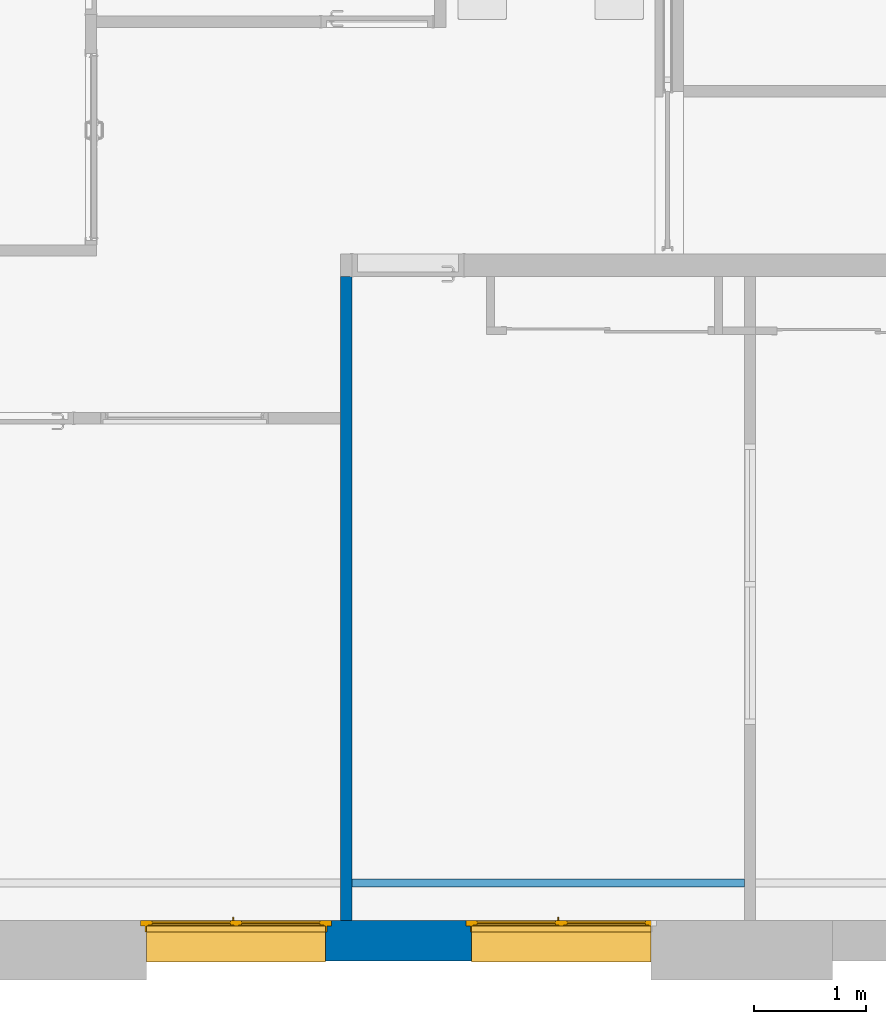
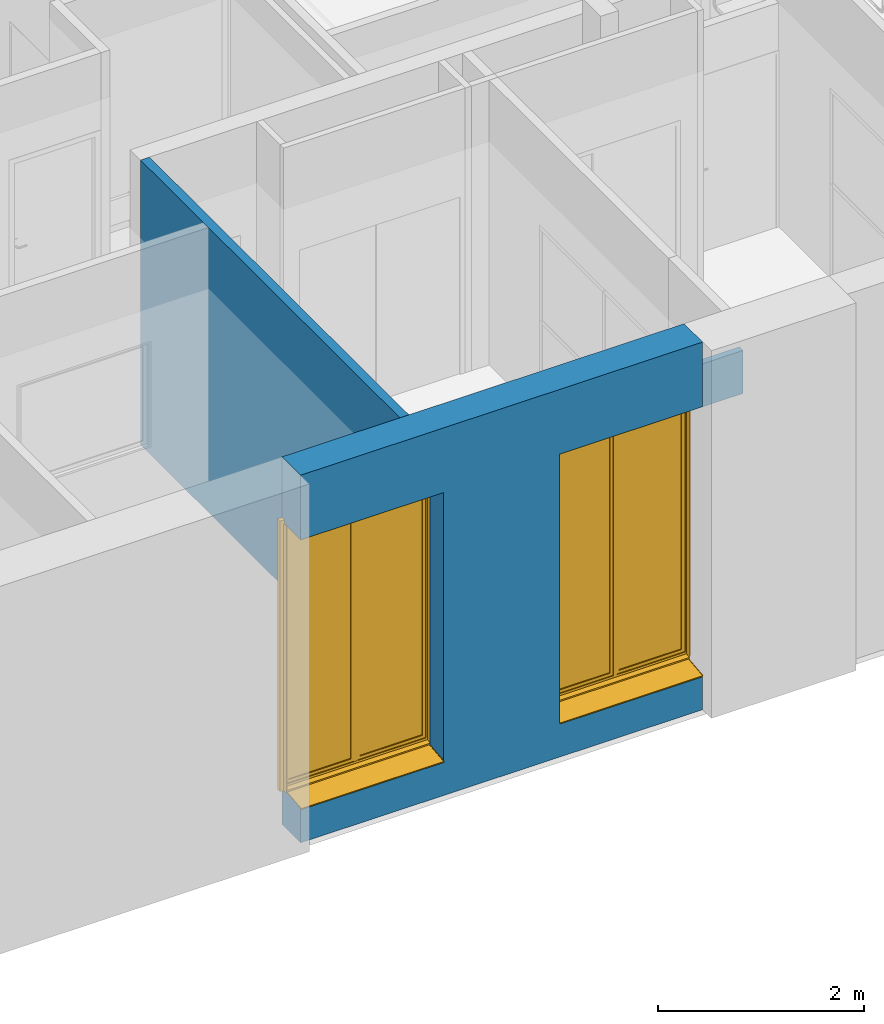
# One storey, part 5 of 32: 3 walls, 2 windows, 2 openings.
"""IFC2X3 building model written with IfcOpenShell, lengths in metres."""

import ifcopenshell
import ifcopenshell.guid

model = None  # the IFC model being written
_history = None  # IfcOwnerHistory: only IFC2X3 demands one
_inside = {}  # id of a spatial element -> (the spatial element, [elements in it])
_under = {}  # id of a project, library or spatial element -> (it, [spatial elements below it])
_declared = {}  # id of a project -> (the project, [libraries it declares])
_typed = {}  # id of a type object -> (the type object, [elements of that type])
_made_of = {}  # id of a material, layer set ... -> (it, [elements and type objects made of it])


def new_model(schema):
    """Start an empty IFC model of exactly this schema.

    Asked for "IFC4X3", IfcOpenShell would pick the latest addendum, in which some entities
    have other attributes; the version numbers below select the first issue.
    IFC2X3 requires an IfcOwnerHistory on every rooted entity: one is made here for all.
    """
    global model, _history
    if schema == "IFC4X3":
        model = ifcopenshell.file(schema_version=(4, 3, 0, 0))
    else:
        model = ifcopenshell.file(schema=schema)
    _inside.clear()
    _under.clear()
    _declared.clear()
    _typed.clear()
    _made_of.clear()
    _history = None
    if model.schema == "IFC2X3":
        org = make("IfcOrganization", Name="unknown")
        user = make(
            "IfcPersonAndOrganization",
            ThePerson=make("IfcPerson", FamilyName="unknown"),
            TheOrganization=org,
        )
        app = make(
            "IfcApplication",
            ApplicationDeveloper=org,
            Version="unknown",
            ApplicationFullName="unknown",
            ApplicationIdentifier="unknown",
        )
        _history = make(
            "IfcOwnerHistory",
            OwningUser=user,
            OwningApplication=app,
            ChangeAction="ADDED",
            CreationDate=0,
        )
    return model


def make(cls, **values):
    """One entity of the class cls with the attributes given. An attribute that is None is left unset."""
    return model.create_entity(
        cls, **{name: value for name, value in values.items() if value is not None}
    )


def entity(cls, *values):
    """Any entity or typed value of the class cls, its attributes in the order of the schema. None: left unset."""
    e = model.create_entity(cls)
    for i, value in enumerate(values):
        if value is not None:
            e[i] = value
    return e


def rooted(cls, **values):
    """An entity with a GlobalId (a new one), such as an element, a storey or a relation."""
    return make(cls, GlobalId=ifcopenshell.guid.new(), OwnerHistory=_history, **values)


def si_unit(unit_type, name, prefix=None):
    """IfcSIUnit, for example si_unit("LENGTHUNIT", "METRE", prefix="MILLI")."""
    return make("IfcSIUnit", UnitType=unit_type, Prefix=prefix, Name=name)


def converted_unit(unit_type, name, factor, base, dimensions=None, offset=None):
    """IfcConversionBasedUnit, such as the inch: factor (a typed value) times the base unit."""
    return make(
        "IfcConversionBasedUnit"
        if offset is None
        else "IfcConversionBasedUnitWithOffset",
        ConversionOffset=offset,
        Dimensions=None
        if dimensions is None
        else entity("IfcDimensionalExponents", *dimensions),
        UnitType=unit_type,
        Name=name,
        ConversionFactor=make(
            "IfcMeasureWithUnit", ValueComponent=factor, UnitComponent=base
        ),
    )


def derived_unit(unit_type, elements):
    """IfcDerivedUnit: a product of units, each with its exponent."""
    return make(
        "IfcDerivedUnit",
        Elements=[
            make("IfcDerivedUnitElement", Unit=unit, Exponent=power)
            for unit, power in elements
        ],
        UnitType=unit_type,
    )


def assignment(units):
    """IfcUnitAssignment: the units of a project."""
    return None if units is None else make("IfcUnitAssignment", Units=units)


def point(xyz):
    """IfcCartesianPoint."""
    return None if xyz is None else make("IfcCartesianPoint", Coordinates=xyz)


def direction(xyz):
    """IfcDirection."""
    return None if xyz is None else make("IfcDirection", DirectionRatios=xyz)


def frame(location, z_axis=None, x_axis=None):
    """IfcAxis2Placement3D, a coordinate frame: its origin and axes. An axis left out is left unset."""
    return make(
        "IfcAxis2Placement3D",
        Location=point(location),
        Axis=direction(z_axis),
        RefDirection=direction(x_axis),
    )


def frame_2d(location, x_axis=None):
    """IfcAxis2Placement2D, a coordinate frame in the plane: its origin and x axis."""
    return make(
        "IfcAxis2Placement2D", Location=point(location), RefDirection=direction(x_axis)
    )


def origin():
    """The frame at (0, 0, 0) with its axes left unset."""
    return frame((0.0, 0.0, 0.0))


def origin_2d_with_axis():
    """The frame at (0, 0) in the plane with the x axis (1, 0) written out."""
    return frame_2d((0.0, 0.0), x_axis=(1.0, 0.0))


def place(relative_to, where):
    """IfcLocalPlacement: puts the frame where relative to a parent placement (None: the world)."""
    return make(
        "IfcLocalPlacement", PlacementRelTo=relative_to, RelativePlacement=where
    )


def context(
    kind, dimensions, precision=None, world=None, true_north=None, identifier=None
):
    """IfcGeometricRepresentationContext, for example the 3D "Model" context."""
    return make(
        "IfcGeometricRepresentationContext",
        ContextIdentifier=identifier,
        ContextType=kind,
        CoordinateSpaceDimension=dimensions,
        Precision=precision,
        WorldCoordinateSystem=world,
        TrueNorth=true_north,
    )


def subcontext(parent, identifier, kind, view, scale=None):
    """IfcGeometricRepresentationSubContext, for example "Body" below "Model"."""
    return make(
        "IfcGeometricRepresentationSubContext",
        ContextIdentifier=identifier,
        ContextType=kind,
        ParentContext=parent,
        TargetScale=scale,
        TargetView=view,
    )


def project(units=None, contexts=None):
    """IfcProject with its units and contexts."""
    return rooted(
        "IfcProject",
        Name="project",
        RepresentationContexts=contexts,
        UnitsInContext=assignment(units),
    )


def spatial(cls, under=None, at=None, **own):
    """A site, building, storey or space (cls), placed at a placement, below another one or the project."""
    s = rooted(cls, ObjectPlacement=at, **own)
    if under is not None:
        _under.setdefault(under.id(), (under, []))[1].append(s)
    return s


def polyline(points):
    """IfcPolyline through the points."""
    return make("IfcPolyline", Points=[point(p) for p in points])


def circle_curve(where, radius):
    """IfcCircle in the frame where."""
    return make("IfcCircle", Position=where, Radius=radius)


def parameter(value):
    """IfcParameterValue: where a trimmed curve begins or ends, as a parameter of its basis curve."""
    return model.create_entity("IfcParameterValue", value)


def trimmed(basis, trim1, trim2, sense, master):
    """IfcTrimmedCurve: the piece of a basis curve between two trims."""
    return make(
        "IfcTrimmedCurve",
        BasisCurve=basis,
        Trim1=trim1,
        Trim2=trim2,
        SenseAgreement=sense,
        MasterRepresentation=master,
    )


def segment(curve, same_sense, transition):
    """IfcCompositeCurveSegment."""
    return make(
        "IfcCompositeCurveSegment",
        Transition=transition,
        SameSense=same_sense,
        ParentCurve=curve,
    )


def composite_curve(segments, self_intersect=None):
    """IfcCompositeCurve: segments joined end to end."""
    return make("IfcCompositeCurve", Segments=segments, SelfIntersect=self_intersect)


def profile(cls, at=None, kind="AREA", **sizes):
    """A parametric profile (cls). Its sizes go by their IFC names, for example OverallWidth=200.0."""
    return make(cls, ProfileType=kind, Position=at, **sizes)


def rectangle(**sizes):
    """IfcRectangleProfileDef."""
    return profile("IfcRectangleProfileDef", **sizes)


def outline(outer, holes=None, kind="AREA"):
    """IfcArbitraryClosedProfileDef: a profile drawn as a closed curve; with holes, ...WithVoids."""
    if holes is None:
        return make("IfcArbitraryClosedProfileDef", ProfileType=kind, OuterCurve=outer)
    return make(
        "IfcArbitraryProfileDefWithVoids",
        ProfileType=kind,
        OuterCurve=outer,
        InnerCurves=holes,
    )


def extrude(swept, where, along, depth):
    """IfcExtrudedAreaSolid: the profile swept, set in the frame where, extruded along a direction by depth."""
    return make(
        "IfcExtrudedAreaSolid",
        SweptArea=swept,
        Position=where,
        ExtrudedDirection=direction(along),
        Depth=depth,
    )


def faces_of(points, faces, orient=None, outer=None):
    """IfcFace entities. A face is a list of loops; a loop is a list of indices into points, from 0.

    orient and outer hold one flag for each loop. By default every Orientation is true, the
    first loop of a face is its IfcFaceOuterBound and the others are IfcFaceBound.
    """
    made = []
    for i, loops in enumerate(faces):
        bounds = []
        for j, loop in enumerate(loops):
            is_outer = j == 0 if outer is None else outer[i][j]
            bounds.append(
                make(
                    "IfcFaceOuterBound" if is_outer else "IfcFaceBound",
                    Bound=make("IfcPolyLoop", Polygon=[points[k] for k in loop]),
                    Orientation=True if orient is None else orient[i][j],
                )
            )
        made.append(make("IfcFace", Bounds=bounds))
    return made


def faceted_brep(points, faces, orient=None, outer=None, voids=None):
    """IfcFacetedBrep: a solid bounded by flat faces; with voids (closed shells), ...WithVoids."""
    shared = [point(p) for p in points]
    hull = make("IfcClosedShell", CfsFaces=faces_of(shared, faces, orient, outer))
    if voids is None:
        return make("IfcFacetedBrep", Outer=hull)
    return make(
        "IfcFacetedBrepWithVoids",
        Outer=hull,
        Voids=[
            make(cls, CfsFaces=faces_of(shared, fs, o, b)) for cls, fs, o, b in voids
        ],
    )


def shape(context_of_items, identifier, shape_type, items):
    """IfcShapeRepresentation: the items that make up one representation, for example the "Body"."""
    return make(
        "IfcShapeRepresentation",
        ContextOfItems=context_of_items,
        RepresentationIdentifier=identifier,
        RepresentationType=shape_type,
        Items=items,
    )


def source(mapping_origin, context_of_items, identifier, shape_type, items):
    """IfcRepresentationMap: a shape defined once, which mapped items show again and again."""
    return make(
        "IfcRepresentationMap",
        MappingOrigin=mapping_origin,
        MappedRepresentation=shape(context_of_items, identifier, shape_type, items),
    )


def transform(
    local_origin,
    x_axis=None,
    y_axis=None,
    z_axis=None,
    scale=None,
    scale2=None,
    scale3=None,
    uniform=True,
):
    """IfcCartesianTransformationOperator3D, or its non-uniform kind. x_axis, y_axis, z_axis: its Axis1, 2, 3."""
    if uniform:
        return make(
            "IfcCartesianTransformationOperator3D",
            Axis1=direction(x_axis),
            Axis2=direction(y_axis),
            LocalOrigin=point(local_origin),
            Scale=scale,
            Axis3=direction(z_axis),
        )
    return make(
        "IfcCartesianTransformationOperator3DnonUniform",
        Axis1=direction(x_axis),
        Axis2=direction(y_axis),
        LocalOrigin=point(local_origin),
        Scale=scale,
        Axis3=direction(z_axis),
        Scale2=scale2,
        Scale3=scale3,
    )


def mapped(mapping_source, mapping_target):
    """IfcMappedItem: shows the shape of a source again, moved by a transform."""
    return make(
        "IfcMappedItem", MappingSource=mapping_source, MappingTarget=mapping_target
    )


def material(Name=None, Category=None):
    """IfcMaterial."""
    return make("IfcMaterial", Name=Name, Category=Category)


def material_list(materials):
    """IfcMaterialList."""
    return make("IfcMaterialList", Materials=materials)


def layer(
    of_material, thickness, ventilated=None, Name=None, Category=None, Priority=None
):
    """IfcMaterialLayer: one layer of a wall or slab, of a material (None: an air gap)."""
    return make(
        "IfcMaterialLayer",
        Material=of_material,
        LayerThickness=thickness,
        IsVentilated=ventilated,
        Name=Name,
        Category=Category,
        Priority=Priority,
    )


def layer_set(layers, Name=None):
    """IfcMaterialLayerSet."""
    return make("IfcMaterialLayerSet", MaterialLayers=layers, LayerSetName=Name)


def layer_usage(for_layer_set, set_direction, sense, offset, extent=None):
    """IfcMaterialLayerSetUsage: how a layer set lies in its element."""
    return make(
        "IfcMaterialLayerSetUsage",
        ForLayerSet=for_layer_set,
        LayerSetDirection=set_direction,
        DirectionSense=sense,
        OffsetFromReferenceLine=offset,
        ReferenceExtent=extent,
    )


def made_of(thing, what):
    """Note that an element or type object is made of a material, layer set ...; save() writes the relation."""
    if what is not None:
        _made_of.setdefault(what.id(), (what, []))[1].append(thing)
    return thing


def type_object(cls, material=None, **own):
    """A type object (cls), such as IfcWallType, which elements share."""
    return made_of(rooted(cls, **own), material)


def type_shapes(of_type, sources):
    """Give a type object the sources (RepresentationMaps) that its elements show as mapped items."""
    of_type.RepresentationMaps = sources


def element(
    cls,
    number,
    at=None,
    inside=None,
    cuts=None,
    type_object=None,
    material=None,
    context=None,
    identifier="Body",
    shape_type=None,
    held_by="IfcProductDefinitionShape",
    body=None,
    shapes=None,
    **own,
):
    """One element of the class cls, such as IfcWall. Its Tag is "e" and its number.

    at: its placement. inside: the storey or other place that contains it. cuts: it is an
    opening in that element (IfcRelVoidsElement). A single representation is given by context,
    identifier, shape_type and body (its items); several are given by shapes. held_by: the class
    of the entity that holds the representations. save() writes the other relations.
    """
    e = rooted(cls, Tag="e%d" % number, ObjectPlacement=at, **own)
    if body is not None:
        shapes = [shape(context, identifier, shape_type, body)]
    if shapes is not None:
        e.Representation = make(held_by, Representations=shapes)
    if inside is not None:
        _inside.setdefault(inside.id(), (inside, []))[1].append(e)
    if cuts is not None:
        rooted(
            "IfcRelVoidsElement", RelatingBuildingElement=cuts, RelatedOpeningElement=e
        )
    if type_object is not None:
        _typed.setdefault(type_object.id(), (type_object, []))[1].append(e)
    return made_of(e, material)


def fill(opening, filler):
    """IfcRelFillsElement: the door or window that sits in an opening."""
    return rooted(
        "IfcRelFillsElement",
        RelatingOpeningElement=opening,
        RelatedBuildingElement=filler,
    )


def aggregate(whole, parts):
    """IfcRelAggregates: a whole, such as a stair, and the parts it consists of."""
    return rooted("IfcRelAggregates", RelatingObject=whole, RelatedObjects=parts)


def save(model, path):
    """Write the relations noted so far, then the file.

    IfcRelAggregates (storeys below a building ...), IfcRelContainedInSpatialStructure (elements
    in a storey), IfcRelDefinesByType, IfcRelAssociatesMaterial and IfcRelDeclares: one each for
    every whole, place, type object, material and project.
    """
    for whole, parts in _under.values():
        aggregate(whole, parts)
    for where, things in _inside.values():
        rooted(
            "IfcRelContainedInSpatialStructure",
            RelatedElements=things,
            RelatingStructure=where,
        )
    for kind, things in _typed.values():
        rooted("IfcRelDefinesByType", RelatedObjects=things, RelatingType=kind)
    for what, things in _made_of.values():
        rooted("IfcRelAssociatesMaterial", RelatedObjects=things, RelatingMaterial=what)
    for by, libraries in _declared.values():
        rooted("IfcRelDeclares", RelatingContext=by, RelatedDefinitions=libraries)
    model.write(path)


model = new_model("IFC2X3")

# Units and contexts
model_context = context("Model", 3, precision=1e-05, world=origin(), true_north=direction((6.12303176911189e-17, 1.0)))
plan_context = context("Plan", 3, precision=1e-05, world=origin(), true_north=direction((6.12303176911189e-17, 1.0)))
body_context = subcontext(model_context, "Body", "Model", "MODEL_VIEW")
ifc_project = project(units=[si_unit("LENGTHUNIT", "METRE"), si_unit("AREAUNIT", "SQUARE_METRE"), si_unit("VOLUMEUNIT", "CUBIC_METRE"), converted_unit("PLANEANGLEUNIT", "DEGREE", entity("IfcRatioMeasure", 0.0174532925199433), si_unit("PLANEANGLEUNIT", "RADIAN"), dimensions=[0, 0, 0, 0, 0, 0, 0]), si_unit("MASSUNIT", "GRAM", prefix="KILO"), derived_unit("MASSDENSITYUNIT", [(si_unit("MASSUNIT", "GRAM", prefix="KILO"), 1), (si_unit("LENGTHUNIT", "METRE"), -3)]), derived_unit("MOMENTOFINERTIAUNIT", [(si_unit("LENGTHUNIT", "METRE"), 4)]), si_unit("TIMEUNIT", "SECOND"), si_unit("FREQUENCYUNIT", "HERTZ"), si_unit("THERMODYNAMICTEMPERATUREUNIT", "DEGREE_CELSIUS"), derived_unit("THERMALTRANSMITTANCEUNIT", [(si_unit("MASSUNIT", "GRAM", prefix="KILO"), 1), (si_unit("THERMODYNAMICTEMPERATUREUNIT", "KELVIN"), -1), (si_unit("TIMEUNIT", "SECOND"), -3)]), derived_unit("VOLUMETRICFLOWRATEUNIT", [(si_unit("LENGTHUNIT", "METRE"), 3), (si_unit("TIMEUNIT", "SECOND"), -1)]), si_unit("ELECTRICCURRENTUNIT", "AMPERE"), si_unit("ELECTRICVOLTAGEUNIT", "VOLT"), si_unit("POWERUNIT", "WATT"), si_unit("FORCEUNIT", "NEWTON", prefix="KILO"), si_unit("ILLUMINANCEUNIT", "LUX"), si_unit("LUMINOUSFLUXUNIT", "LUMEN"), si_unit("LUMINOUSINTENSITYUNIT", "CANDELA"), derived_unit("USERDEFINED", [(si_unit("MASSUNIT", "GRAM", prefix="KILO"), -1), (si_unit("LENGTHUNIT", "METRE"), -2), (si_unit("TIMEUNIT", "SECOND"), 3), (si_unit("LUMINOUSFLUXUNIT", "LUMEN"), 1)]), derived_unit("LINEARVELOCITYUNIT", [(si_unit("LENGTHUNIT", "METRE"), 1), (si_unit("TIMEUNIT", "SECOND"), -1)]), si_unit("PRESSUREUNIT", "PASCAL"), derived_unit("USERDEFINED", [(si_unit("LENGTHUNIT", "METRE"), -2), (si_unit("MASSUNIT", "GRAM", prefix="KILO"), 1), (si_unit("TIMEUNIT", "SECOND"), -2)]), derived_unit("LINEARFORCEUNIT", [(si_unit("MASSUNIT", "GRAM", prefix="KILO"), 1), (si_unit("LENGTHUNIT", "METRE"), 1), (si_unit("TIMEUNIT", "SECOND"), -2), (si_unit("LENGTHUNIT", "METRE"), -1)]), derived_unit("PLANARFORCEUNIT", [(si_unit("MASSUNIT", "GRAM", prefix="KILO"), 1), (si_unit("LENGTHUNIT", "METRE"), 1), (si_unit("TIMEUNIT", "SECOND"), -2), (si_unit("LENGTHUNIT", "METRE"), -2)])], contexts=[model_context, plan_context])

# Site, building, storey
site_placement = place(None, origin())
site = spatial("IfcSite", under=ifc_project, at=site_placement, Name="Default", CompositionType="ELEMENT")
building_placement = place(site_placement, origin())
building = spatial("IfcBuilding", under=site, at=building_placement, CompositionType="ELEMENT")
storey_placement = place(building_placement, origin())
storey = spatial("IfcBuildingStorey", under=building, at=storey_placement, Name="0 Mairie RDC 0.00", CompositionType="ELEMENT", Elevation=-1.94916083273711e-14)

# Walls
ifc_material_1 = material(Name="Plâtre")
ifc_layer_1 = layer(ifc_material_1, 0.0125)
ifc_layer_2 = layer(ifc_material_1, 0.0125)
ifc_material_2 = material(Name="Maçonnerie - Isolant")
ifc_layer_3 = layer(ifc_material_2, 0.05)
ifc_layer_4 = layer(ifc_material_1, 0.0125)
ifc_layer_5 = layer(ifc_material_1, 0.0125)
ifc_layer_set_1 = layer_set([ifc_layer_1, ifc_layer_2, ifc_layer_3, ifc_layer_4, ifc_layer_5], Name="Mur de base:A cloison placostil 98 sèche")
ifc_layer_usage_1 = layer_usage(ifc_layer_set_1, "AXIS2", "NEGATIVE", 0.05)
wall_type_1 = type_object("IfcWallType", Name="Murs : Mur de base : A cloison placostil 98 sèche", PredefinedType="STANDARD", material=ifc_layer_set_1)
wall_1_placement = place(storey_placement, frame((-16.9554461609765, -13.9785662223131, 0.0), z_axis=(0.0, 0.0, 1.0), x_axis=(0.0, 1.0, 0.0)))
element("IfcWallStandardCase", 1, at=wall_1_placement, inside=storey, type_object=wall_type_1, material=ifc_layer_usage_1, Name="Murs : Mur de base : A cloison placostil 98 sèche", ObjectType="Mur de base:A cloison placostil 98 sèche", context=body_context, shape_type="SweptSolid", body=[
    extrude(rectangle(XDim=5.74580247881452, YDim=0.0999999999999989, at=frame_2d((2.87290123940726, -1.42247325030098e-16), x_axis=(-1.0, 0.0))), origin(), (0.0, 0.0, 1.0), 3.37),
])
ifc_layer_6 = layer(ifc_material_1, 0.01)
ifc_layer_7 = layer(ifc_material_2, 0.05)
ifc_layer_8 = layer(ifc_material_1, 0.01)
ifc_layer_set_2 = layer_set([ifc_layer_6, ifc_layer_7, ifc_layer_8], Name="Mur de base:A cloison placostil 72 sèche")
ifc_layer_usage_2 = layer_usage(ifc_layer_set_2, "AXIS2", "POSITIVE", -0.035)
wall_type_2 = type_object("IfcWallType", Name="Murs : Mur de base : A cloison placostil 72 sèche", PredefinedType="STANDARD", material=ifc_layer_set_2)
wall_2_placement = place(storey_placement, frame((-16.9054461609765, -13.6435662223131, 2.65)))
element("IfcWallStandardCase", 2, at=wall_2_placement, inside=storey, type_object=wall_type_2, material=ifc_layer_usage_2, Name="Murs : Mur de base : A cloison placostil 72 sèche", ObjectType="Mur de base:A cloison placostil 72 sèche", context=body_context, shape_type="SweptSolid", body=[
    extrude(rectangle(XDim=3.50119115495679, YDim=0.0700000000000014, at=frame_2d((1.7505955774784, 9.36750677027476e-17), x_axis=(-1.0, 0.0))), origin(), (0.0, 0.0, 1.0), 0.510000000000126),
])

# Wall, openings, windows
ifc_material_3 = material(Name="Maçonnerie - Enduit")
ifc_layer_9 = layer(ifc_material_3, 0.02)
ifc_material_4 = material(Name="Béton, coulé sur place")
ifc_layer_10 = layer(ifc_material_4, 0.2)
ifc_material_5 = material(Name="Vide")
ifc_layer_11 = layer(ifc_material_5, 0.01)
ifc_layer_12 = layer(ifc_material_2, 0.12)
ifc_layer_13 = layer(ifc_material_1, 0.01)
ifc_layer_set_3 = layer_set([ifc_layer_9, ifc_layer_10, ifc_layer_11, ifc_layer_12, ifc_layer_13], Name="Mur de base:A Enduit 2 + Béton 20 + vide 1 +  Doublage 13")
ifc_layer_usage_3 = layer_usage(ifc_layer_set_3, "AXIS2", "POSITIVE", -0.18)
wall_type_3 = type_object("IfcWallType", Name="Murs : Mur de base : A Enduit 2 + Béton 20 + vide 1 +  Doublage 13", PredefinedType="STANDARD", material=ifc_layer_set_3)
wall_3_placement = place(storey_placement, frame((-18.7386355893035, -14.1585662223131, -0.400000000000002)))
wall_3 = element("IfcWallStandardCase", 3, at=wall_3_placement, inside=storey, type_object=wall_type_3, material=ifc_layer_usage_3, Name="Murs : Mur de base : A Enduit 2 + Béton 20 + vide 1 +  Doublage 13", ObjectType="Mur de base:A Enduit 2 + Béton 20 + vide 1 +  Doublage 13", context=body_context, shape_type="SweptSolid", body=[
    extrude(rectangle(XDim=4.50000000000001, YDim=0.36, at=frame_2d((2.25, 3.33066907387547e-16), x_axis=(-1.0, 0.0))), origin(), (0.0, 0.0, 1.0), 4.35000000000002),
])
opening_1_placement = place(wall_3_placement, frame((2.85000000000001, -0.500000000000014, 0.400000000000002)))
opening_1 = element("IfcOpeningElement", 4, at=opening_1_placement, cuts=wall_3, Name="Murs : Mur de base : A Enduit 2 + Béton 20 + vide 1 +  Doublage 13", ObjectType="Opening", context=body_context, shape_type="Brep", body=[
    faceted_brep([(1.65, 0.59999999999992, 0.035), (1.65, 0.579999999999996, 0.035), (1.65, 0.579999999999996, 3.185), (1.65, 0.0, 3.185), (1.65, 0.0, 0.0), (1.65, 0.266997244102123, 0.0), (0.0500000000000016, 1.0, 0.0350000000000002), (0.0499999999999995, 0.680000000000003, 0.0350000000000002), (0.0499999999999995, 0.680000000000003, 3.185), (0.0500000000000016, 1.0, 3.185), (1.65, 1.0, 0.0350000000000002), (1.65, 0.679999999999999, 0.0350000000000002), (1.7, 0.679999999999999, 0.0350000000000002), (1.7, 0.63, 0.0350000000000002), (1.66, 0.63, 0.0350000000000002), (1.66, 0.579999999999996, 0.0350000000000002), (0.0499999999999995, 0.599999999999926, 0.0349999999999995), (0.0499999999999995, 0.580000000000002, 0.0350000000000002), (0.0399999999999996, 0.580000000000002, 0.0350000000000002), (0.0399999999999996, 0.630000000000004, 0.0350000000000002), (0.0, 0.630000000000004, 0.0350000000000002), (0.0, 0.680000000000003, 0.0350000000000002), (1.65, 1.0, 3.185), (0.0499999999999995, 0.58, 3.185), (0.0499999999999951, 0.0, 3.185), (0.0499999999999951, 0.0, 0.0), (0.0499999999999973, 0.266997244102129, 0.0), (1.7, 0.679999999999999, 3.235), (1.7, 0.63, 3.235), (0.0, 0.630000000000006, 3.235), (0.0399999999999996, 0.630000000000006, 3.195), (1.66, 0.63, 3.195), (1.66, 0.579999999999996, 3.195), (0.0399999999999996, 0.580000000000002, 3.195), (1.65, 0.679999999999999, 3.185), (0.0, 0.680000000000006, 3.235)], [[[0, 1, 2, 3, 4, 5]], [[6, 7, 8, 9]], [[10, 11, 12, 13, 14, 15, 1, 0, 16, 17, 18, 19, 20, 21, 7, 6]], [[10, 6, 9, 22]], [[3, 2, 23, 24]], [[3, 24, 25, 4]], [[4, 25, 26, 5]], [[5, 26, 16, 0]], [[12, 27, 28, 13]], [[13, 28, 29, 20, 19, 30, 31, 14]], [[14, 31, 32, 15]], [[15, 32, 33, 18, 17, 23, 2, 1]], [[11, 34, 8, 7, 21, 35, 27, 12]], [[27, 35, 29, 28]], [[30, 33, 32, 31]], [[29, 35, 21, 20]], [[19, 18, 33, 30]], [[9, 8, 34, 22]], [[24, 23, 17, 16, 26, 25]], [[22, 34, 11, 10]]]),
])
opening_2_placement = place(wall_3_placement, frame((-0.0499999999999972, -0.500000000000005, 0.400000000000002)))
opening_2 = element("IfcOpeningElement", 5, at=opening_2_placement, cuts=wall_3, Name="Murs : Mur de base : A Enduit 2 + Béton 20 + vide 1 +  Doublage 13", ObjectType="Opening", context=body_context, shape_type="Brep", body=[
    faceted_brep([(1.65, 0.599999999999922, 0.035), (1.65, 0.579999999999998, 0.035), (1.65, 0.579999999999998, 3.185), (1.65, 0.0, 3.185), (1.65, 0.0, 0.0), (1.65, 0.266997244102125, 0.0), (0.0500000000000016, 1.0, 0.0350000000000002), (0.0499999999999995, 0.680000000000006, 0.0350000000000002), (0.0499999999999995, 0.680000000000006, 3.185), (0.0500000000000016, 1.0, 3.185), (1.65, 1.0, 0.0350000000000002), (1.65, 0.680000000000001, 0.0350000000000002), (1.7, 0.680000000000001, 0.0350000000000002), (1.7, 0.630000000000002, 0.0350000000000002), (1.66, 0.630000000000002, 0.0350000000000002), (1.66, 0.579999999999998, 0.0350000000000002), (0.0499999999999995, 0.599999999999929, 0.0349999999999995), (0.0499999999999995, 0.580000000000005, 0.0350000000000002), (0.0399999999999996, 0.580000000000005, 0.0350000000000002), (0.0399999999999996, 0.630000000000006, 0.0350000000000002), (0.0, 0.630000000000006, 0.0350000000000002), (0.0, 0.680000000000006, 0.0350000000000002), (1.65, 1.0, 3.185), (0.0499999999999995, 0.580000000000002, 3.185), (0.0499999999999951, 0.0, 3.185), (0.0499999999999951, 0.0, 0.0), (0.0499999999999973, 0.266997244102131, 0.0), (1.7, 0.680000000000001, 3.235), (1.7, 0.630000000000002, 3.235), (0.0, 0.630000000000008, 3.235), (0.0399999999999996, 0.630000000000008, 3.195), (1.66, 0.630000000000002, 3.195), (1.66, 0.579999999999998, 3.195), (0.0399999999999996, 0.580000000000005, 3.195), (1.65, 0.680000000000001, 3.185), (0.0, 0.680000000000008, 3.235)], [[[0, 1, 2, 3, 4, 5]], [[6, 7, 8, 9]], [[10, 11, 12, 13, 14, 15, 1, 0, 16, 17, 18, 19, 20, 21, 7, 6]], [[10, 6, 9, 22]], [[3, 2, 23, 24]], [[3, 24, 25, 4]], [[4, 25, 26, 5]], [[5, 26, 16, 0]], [[12, 27, 28, 13]], [[13, 28, 29, 20, 19, 30, 31, 14]], [[14, 31, 32, 15]], [[15, 32, 33, 18, 17, 23, 2, 1]], [[11, 34, 8, 7, 21, 35, 27, 12]], [[27, 35, 29, 28]], [[30, 33, 32, 31]], [[29, 35, 21, 20]], [[19, 18, 33, 30]], [[9, 8, 34, 22]], [[24, 23, 17, 16, 26, 25]], [[22, 34, 11, 10]]]),
])
ifc_material_6 = material(Name="PVC Blanc")
ifc_material_7 = material(Name="Fenêtre - Vitrage")
ifc_material_list = material_list([ifc_material_7, ifc_material_6])
window_style = type_object("IfcWindowStyle", Name="Fenêtres : PF 2 Vantaux - Droits : 1.60 x 3.15", ConstructionType="NOTDEFINED", OperationType="DOUBLE_PANEL_VERTICAL", ParameterTakesPrecedence=False, Sizeable=False, material=ifc_material_list)
shared_shape = source(origin(), body_context, "Body", "SolidModel", [
    extrude(outline(polyline([(-0.0233345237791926, -0.0332340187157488), (-0.0162634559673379, -0.0332340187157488), (0.0332340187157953, 0.0162634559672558), (0.0332340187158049, 0.0233345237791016), (0.0233345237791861, 0.0332340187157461), (0.0162634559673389, 0.0332340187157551), (-0.0332340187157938, -0.0162634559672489), (-0.0332340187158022, -0.0233345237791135), (-0.0233345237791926, -0.0332340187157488)])), frame((0.875000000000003, 0.314000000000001, 1.1), z_axis=(0.0, 1.0, 0.0), x_axis=(0.707106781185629, 0.0, -0.707106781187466)), (0.0, 0.0, 1.0), 0.00599999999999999),
    extrude(outline(polyline([(-0.145647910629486, 0.00157280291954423), (-0.14680589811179, -0.00944471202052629), (-0.141778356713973, -0.0094447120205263), (-0.141169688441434, -0.003653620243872), (0.145429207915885, -0.00365362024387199), (0.146997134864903, 0.0112642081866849), (0.142024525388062, 0.0117868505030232), (0.140950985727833, 0.00157280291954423), (-0.145647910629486, 0.00157280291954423)])), frame((0.05, 0.545014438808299, 0.0234321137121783), z_axis=(-1.0, 0.0, 0.0), x_axis=(0.0, -0.994521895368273, 0.104528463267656)), (0.0, 0.0, -1.0), 1.6),
    extrude(outline(composite_curve([segment(polyline([(-0.014354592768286, -0.11472792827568), (-0.0129286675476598, -0.11472792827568)]), True, "CONTINUOUS"), segment(trimmed(circle_curve(frame_2d((-0.0129286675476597, -0.11072792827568), x_axis=(0.0, 1.0)), 0.004), [parameter(180.0)], [parameter(264.0)], True, "PARAMETER"), True, "CONTINUOUS"), segment(polyline([(-0.00895057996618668, -0.111146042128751), (0.0206306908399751, 0.170300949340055)]), True, "CONTINUOUS"), segment(polyline([(0.0206306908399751, 0.170300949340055), (0.0156031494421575, 0.170300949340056)]), True, "CONTINUOUS"), segment(polyline([(0.0156031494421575, 0.170300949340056), (-0.014354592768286, -0.11472792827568)]), True, "CONTINUOUS")], self_intersect=False)), frame((0.0499999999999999, 0.575300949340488, 0.0241265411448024), z_axis=(1.0, 0.0, 0.0), x_axis=(0.0, 0.0, 1.0)), (0.0, 0.0, 1.0), 0.00499999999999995),
    extrude(outline(composite_curve([segment(polyline([(-0.0143545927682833, -0.11472792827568), (-0.0129286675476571, -0.11472792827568)]), True, "CONTINUOUS"), segment(trimmed(circle_curve(frame_2d((-0.0129286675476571, -0.11072792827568), x_axis=(0.0, 1.0)), 0.004), [parameter(180.0)], [parameter(264.0)], True, "PARAMETER"), True, "CONTINUOUS"), segment(polyline([(-0.00895057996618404, -0.111146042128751), (0.020630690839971, 0.170300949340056)]), True, "CONTINUOUS"), segment(polyline([(0.020630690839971, 0.170300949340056), (0.0156031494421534, 0.170300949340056)]), True, "CONTINUOUS"), segment(polyline([(0.0156031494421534, 0.170300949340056), (-0.0143545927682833, -0.11472792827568)]), True, "CONTINUOUS")], self_intersect=False)), frame((1.645, 0.575300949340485, 0.0241265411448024), z_axis=(1.0, 0.0, 0.0), x_axis=(0.0, 0.0, 1.0)), (0.0, 0.0, 1.0), 0.00499999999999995),
    extrude(outline(polyline([(-0.400000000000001, -1.55), (0.400000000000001, -1.55), (0.400000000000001, 1.55), (-0.400000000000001, 1.55), (-0.400000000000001, -1.55)]), holes=[polyline([(0.350000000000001, -1.5), (-0.350000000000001, -1.5), (-0.350000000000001, 1.5), (0.350000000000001, 1.5), (0.350000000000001, -1.5)])]), frame((0.449999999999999, 0.320000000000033, 1.635), z_axis=(0.0, 1.0, 0.0), x_axis=(-1.0, 0.0, 0.0)), (0.0, 0.0, 1.0), 0.0399999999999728),
    extrude(rectangle(XDim=0.012, YDim=0.700000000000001, at=origin_2d_with_axis()), frame((1.25, 0.339999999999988, 0.135), z_axis=(0.0, 0.0, 1.0), x_axis=(0.0, -1.0, 0.0)), (0.0, 0.0, 1.0), 3.0),
    extrude(rectangle(XDim=0.012, YDim=0.700000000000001, at=origin_2d_with_axis()), frame((0.449999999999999, 0.339999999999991, 0.135), z_axis=(0.0, 0.0, 1.0), x_axis=(0.0, -1.0, 0.0)), (0.0, 0.0, 1.0), 3.0),
    extrude(outline(polyline([(-0.399999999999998, -1.55), (0.400000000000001, -1.55), (0.399999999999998, 1.55), (-0.400000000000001, 1.55), (-0.399999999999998, -1.55)]), holes=[polyline([(0.350000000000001, -1.5), (-0.349999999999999, -1.5), (-0.350000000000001, 1.5), (0.349999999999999, 1.5), (0.350000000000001, -1.5)])]), frame((1.25, 0.319999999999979, 1.635), z_axis=(0.0, 1.0, 0.0), x_axis=(-1.0, 0.0, 0.0)), (0.0, 0.0, 1.0), 0.0399999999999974),
    extrude(outline(polyline([(-1.5775, -0.81), (1.5825, -0.81), (1.5825, 0.81), (-1.5775, 0.810000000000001), (-1.5775, 0.8), (1.5725, 0.8), (1.5725, -0.8), (-1.5775, -0.8), (-1.5775, -0.81)])), frame((0.85, 0.37, 1.6125), z_axis=(0.0, 1.0, 0.0), x_axis=(0.0, 0.0, 1.0)), (0.0, 0.0, 1.0), 0.0500000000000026),
    extrude(rectangle(XDim=0.0400000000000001, YDim=0.00799999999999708, at=frame_2d((0.0, 8.23993651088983e-18), x_axis=(1.0, 0.0))), frame((0.85, 0.363999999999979, 0.0999999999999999), z_axis=(0.0, 0.0, 1.0), x_axis=(-1.0, 0.0, 0.0)), (0.0, 0.0, 1.0), 3.07),
    faceted_brep([(0.880646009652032, 0.313999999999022, 1.12203392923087), (0.882033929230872, 0.313999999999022, 1.12064600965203), (0.882033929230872, 0.313999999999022, 1.10933230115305), (0.880667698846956, 0.313999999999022, 1.10796607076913), (0.869332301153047, 0.313999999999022, 1.10796607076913), (0.867966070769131, 0.313999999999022, 1.10933230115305), (0.867966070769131, 0.313999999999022, 1.12064600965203), (0.869353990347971, 0.313999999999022, 1.12203392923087), (0.880646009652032, 0.301086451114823, 1.12203392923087), (0.882033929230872, 0.301661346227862, 1.12064600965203), (0.882033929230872, 0.288353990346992, 1.10733865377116), (0.882033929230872, 0.288353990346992, 1.02), (0.882033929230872, 0.299667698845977, 1.02), (0.882033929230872, 0.299667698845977, 1.10265236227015), (0.882033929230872, 0.306347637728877, 1.10933230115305), (0.880667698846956, 0.306913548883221, 1.10796607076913), (0.869332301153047, 0.306913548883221, 1.10796607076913), (0.867966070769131, 0.306347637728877, 1.10933230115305), (0.867966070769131, 0.299667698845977, 1.10265236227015), (0.867966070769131, 0.299667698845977, 1.02), (0.867966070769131, 0.288353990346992, 1.02), (0.867966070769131, 0.288353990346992, 1.10733865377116), (0.867966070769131, 0.301661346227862, 1.12064600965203), (0.869353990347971, 0.301086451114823, 1.12203392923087), (0.880646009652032, 0.286966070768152, 1.1079135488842), (0.880667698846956, 0.301033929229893, 1.1020864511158), (0.869332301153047, 0.301033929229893, 1.1020864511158), (0.869353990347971, 0.286966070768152, 1.1079135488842), (0.880646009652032, 0.286966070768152, 1.02), (0.869353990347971, 0.286966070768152, 1.02), (0.869332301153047, 0.301033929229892, 1.02), (0.880667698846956, 0.301033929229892, 1.02)], [[[0, 1, 2, 3, 4, 5, 6, 7]], [[1, 0, 8, 9]], [[2, 1, 9, 10, 11, 12, 13, 14]], [[3, 2, 14, 15]], [[4, 3, 15, 16]], [[5, 4, 16, 17]], [[6, 5, 17, 18, 19, 20, 21, 22]], [[7, 6, 22, 23]], [[0, 7, 23, 8]], [[9, 8, 24, 10]], [[15, 14, 13, 25]], [[16, 15, 25, 26]], [[17, 16, 26, 18]], [[23, 22, 21, 27]], [[8, 23, 27, 24]], [[28, 29, 20, 19, 30, 31, 12, 11]], [[10, 24, 28, 11]], [[25, 13, 12, 31]], [[26, 25, 31, 30]], [[18, 26, 30, 19]], [[27, 21, 20, 29]], [[24, 27, 29, 28]]]),
    faceted_brep([(0.0, 0.320000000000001, 0.0350000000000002), (0.0, 0.370000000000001, 0.0350000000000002), (0.0499999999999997, 0.370000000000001, 0.0350000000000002), (0.0499999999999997, 0.399999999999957, 0.0350000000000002), (1.65, 0.399999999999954, 0.0350000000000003), (1.65, 0.370000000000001, 0.0350000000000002), (1.7, 0.370000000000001, 0.0350000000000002), (1.7, 0.320000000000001, 0.0350000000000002), (0.0, 0.320000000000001, 3.235), (0.0, 0.370000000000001, 3.235), (1.7, 0.370000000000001, 3.235), (1.65, 0.370000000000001, 0.0743761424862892), (0.0499999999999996, 0.370000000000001, 0.0743761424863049), (0.0649999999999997, 0.370000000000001, 3.17), (0.0649999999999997, 0.370000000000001, 0.0999999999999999), (1.635, 0.370000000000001, 0.1), (1.635, 0.370000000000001, 3.17), (0.0499999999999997, 0.419999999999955, 0.060978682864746), (0.0499999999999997, 0.419999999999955, 0.0450000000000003), (0.0499999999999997, 0.40999999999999, 0.0450000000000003), (0.0499999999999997, 0.40999999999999, 0.050000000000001), (0.0499999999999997, 0.399999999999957, 0.050000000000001), (1.65, 0.399999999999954, 0.050000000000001), (1.65, 0.409999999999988, 0.050000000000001), (1.65, 0.409999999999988, 0.0450000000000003), (1.65, 0.419999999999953, 0.0450000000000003), (1.65, 0.419999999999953, 0.060978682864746), (1.7, 0.320000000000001, 3.235), (1.65, 0.320000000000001, 3.185), (1.65, 0.32, 0.0850000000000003), (0.0499999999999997, 0.320000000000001, 0.0850000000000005), (0.0499999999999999, 0.320000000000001, 3.185), (0.0649999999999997, 0.360000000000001, 3.17), (0.0649999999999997, 0.360000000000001, 0.0999999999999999), (1.635, 0.360000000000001, 0.1), (1.635, 0.360000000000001, 3.17), (1.65, 0.360000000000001, 3.185), (0.0499999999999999, 0.360000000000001, 3.185), (0.0499999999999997, 0.360000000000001, 0.0850000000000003), (1.65, 0.360000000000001, 0.0850000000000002)], [[[0, 1, 2, 3, 4, 5, 6, 7]], [[1, 0, 8, 9]], [[1, 9, 10, 6, 5, 11, 12, 2], [13, 14, 15, 16]], [[12, 17, 18, 19, 20, 21, 3, 2]], [[3, 21, 22, 4]], [[4, 22, 23, 24, 25, 26, 11, 5]], [[6, 10, 27, 7]], [[0, 7, 27, 8], [28, 29, 30, 31]], [[13, 32, 33, 14]], [[33, 34, 15, 14]], [[35, 16, 15, 34]], [[17, 12, 11, 26]], [[36, 37, 38, 39], [32, 35, 34, 33]], [[38, 37, 31, 30]], [[30, 29, 39, 38]], [[28, 36, 39, 29]], [[18, 17, 26, 25]], [[19, 18, 25, 24]], [[20, 19, 24, 23]], [[21, 20, 23, 22]], [[13, 16, 35, 32]], [[37, 36, 28, 31]], [[10, 9, 8, 27]]]),
])
type_shapes(window_style, [shared_shape])
window_1_placement = place(opening_1_placement, frame((1.7, 1.0, 0.0), z_axis=(0.0, 0.0, 1.0), x_axis=(-1.0, 0.0, 0.0)))
window_1 = element("IfcWindow", 6, at=window_1_placement, inside=storey, type_object=window_style, material=ifc_material_6, Name="Fenêtres : PF 2 Vantaux - Droits : 1.60 x 3.15", ObjectType="PF 2 Vantaux - Droits:1.60 x 3.15", OverallHeight=3.265, OverallWidth=1.7, context=body_context, shape_type="MappedRepresentation", body=[
    mapped(shared_shape, transform((0.0, 0.0, 0.0), scale=1.0)),
])
fill(opening_1, window_1)
window_2_placement = place(opening_2_placement, frame((1.7, 1.0, 0.0), z_axis=(0.0, 0.0, 1.0), x_axis=(-1.0, 0.0, 0.0)))
window_2 = element("IfcWindow", 7, at=window_2_placement, inside=storey, type_object=window_style, material=ifc_material_6, Name="Fenêtres : PF 2 Vantaux - Droits : 1.60 x 3.15", ObjectType="PF 2 Vantaux - Droits:1.60 x 3.15", OverallHeight=3.265, OverallWidth=1.7, context=body_context, shape_type="MappedRepresentation", body=[
    mapped(shared_shape, transform((0.0, 0.0, 0.0), scale=1.0)),
])
fill(opening_2, window_2)

save(model, "model.ifc")
